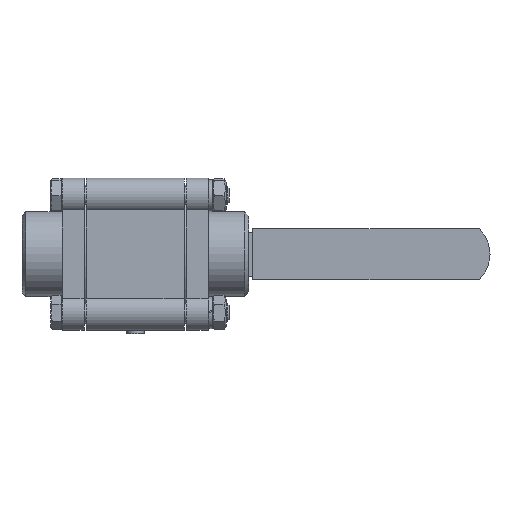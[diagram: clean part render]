
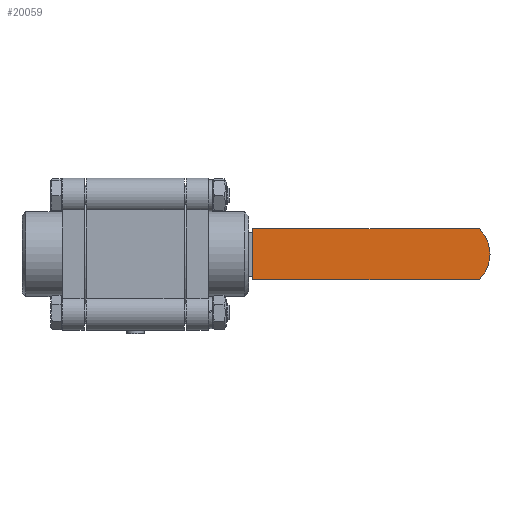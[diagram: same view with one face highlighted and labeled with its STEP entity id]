
A CAD part, front view. The second image highlights one B-rep face of the part: STEP entity #20059.
In plain terms, the highlighted planar face has unit normal (0, -1, 0).
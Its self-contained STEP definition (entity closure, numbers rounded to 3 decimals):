
#1058=PLANE('',#21301);
#2819=FACE_OUTER_BOUND('',#3925,.T.);
#3925=EDGE_LOOP('',(#14666,#14667,#14668,#14669));
#5129=CIRCLE('',#21299,20.);
#5989=LINE('',#28553,#7664);
#5991=LINE('',#28557,#7666);
#5992=LINE('',#28558,#7667);
#7664=VECTOR('',#23493,10.);
#7666=VECTOR('',#23497,10.);
#7667=VECTOR('',#23498,10.);
#9380=VERTEX_POINT('',#28546);
#9381=VERTEX_POINT('',#28547);
#9382=VERTEX_POINT('',#28552);
#9383=VERTEX_POINT('',#28556);
#11416=EDGE_CURVE('',#9380,#9381,#5129,.T.);
#11419=EDGE_CURVE('',#9382,#9380,#5989,.T.);
#11421=EDGE_CURVE('',#9383,#9381,#5991,.T.);
#11422=EDGE_CURVE('',#9382,#9383,#5992,.T.);
#14666=ORIENTED_EDGE('',*,*,#11416,.T.);
#14667=ORIENTED_EDGE('',*,*,#11421,.F.);
#14668=ORIENTED_EDGE('',*,*,#11422,.F.);
#14669=ORIENTED_EDGE('',*,*,#11419,.T.);
#20059=ADVANCED_FACE('',(#2819),#1058,.T.);
#21299=AXIS2_PLACEMENT_3D('',#28548,#23487,#23488);
#21301=AXIS2_PLACEMENT_3D('',#28555,#23495,#23496);
#23487=DIRECTION('center_axis',(0.,-1.,0.));
#23488=DIRECTION('ref_axis',(0.689,0.,0.725));
#23493=DIRECTION('',(1.,0.,0.));
#23495=DIRECTION('center_axis',(0.,-1.,0.));
#23496=DIRECTION('ref_axis',(0.,0.,
-1.));
#23497=DIRECTION('',(1.,0.,0.));
#23498=DIRECTION('',(0.,0.,1.));
#28546=CARTESIAN_POINT('',(193.874,189.777,-13.5));
#28547=CARTESIAN_POINT('',(193.874,189.777,15.5));
#28548=CARTESIAN_POINT('Origin',(180.099,189.777,1.));
#28552=CARTESIAN_POINT('',(65.099,189.777,-13.5));
#28553=CARTESIAN_POINT('',(65.099,189.777,-13.5));
#28555=CARTESIAN_POINT('Origin',(65.099,189.777,15.5));
#28556=CARTESIAN_POINT('',(65.099,189.777,15.5));
#28557=CARTESIAN_POINT('',(65.099,189.777,15.5));
#28558=CARTESIAN_POINT('',(65.099,189.777,-13.5));
